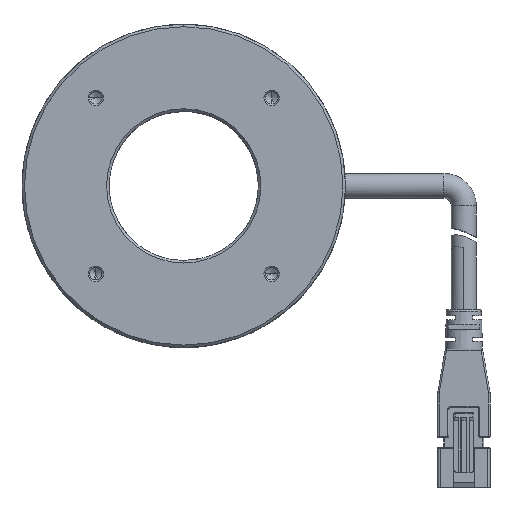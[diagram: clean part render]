
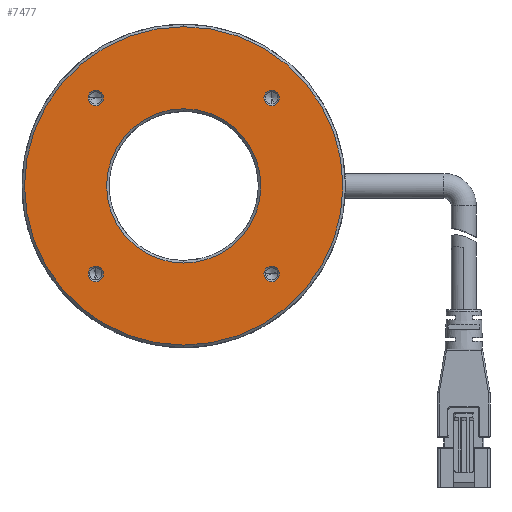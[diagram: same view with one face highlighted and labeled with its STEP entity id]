
A CAD part, top view. The second image highlights one B-rep face of the part: STEP entity #7477.
In plain terms, the highlighted planar face has unit normal (0, 0, 1).
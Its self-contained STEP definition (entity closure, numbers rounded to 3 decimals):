
#2044=CARTESIAN_POINT('',(17.678,17.678,1.5));
#2045=DIRECTION('',(0.,0.,-1.));
#2046=DIRECTION('',(0.,-1.,0.));
#2047=AXIS2_PLACEMENT_3D('',#2044,#2045,#2046);
#2049=CARTESIAN_POINT('',(17.678,17.678,1.5));
#2050=DIRECTION('',(0.,0.,-1.));
#2051=DIRECTION('',(0.,1.,0.));
#2052=AXIS2_PLACEMENT_3D('',#2049,#2050,#2051);
#2054=CARTESIAN_POINT('',(-17.678,-17.678,1.5));
#2055=DIRECTION('',(0.,0.,-1.));
#2056=DIRECTION('',(0.,1.,0.));
#2057=AXIS2_PLACEMENT_3D('',#2054,#2055,#2056);
#2059=CARTESIAN_POINT('',(-17.678,-17.678,1.5));
#2060=DIRECTION('',(0.,0.,-1.));
#2061=DIRECTION('',(0.,-1.,0.));
#2062=AXIS2_PLACEMENT_3D('',#2059,#2060,#2061);
#2064=CARTESIAN_POINT('',(0.,0.,1.5));
#2065=DIRECTION('',(0.,0.,-1.));
#2066=DIRECTION('',(0.,1.,0.));
#2067=AXIS2_PLACEMENT_3D('',#2064,#2065,#2066);
#2069=CARTESIAN_POINT('',(0.,0.,1.5));
#2070=DIRECTION('',(0.,0.,-1.));
#2071=DIRECTION('',(0.,-1.,0.));
#2072=AXIS2_PLACEMENT_3D('',#2069,#2070,#2071);
#2074=CARTESIAN_POINT('',(0.,0.,1.5));
#2075=DIRECTION('',(0.,0.,1.));
#2076=DIRECTION('',(0.,1.,0.));
#2077=AXIS2_PLACEMENT_3D('',#2074,#2075,#2076);
#2079=CARTESIAN_POINT('',(0.,0.,1.5));
#2080=DIRECTION('',(0.,0.,1.));
#2081=DIRECTION('',(0.,-1.,0.));
#2082=AXIS2_PLACEMENT_3D('',#2079,#2080,#2081);
#2132=CARTESIAN_POINT('',(17.678,-17.678,1.5));
#2133=DIRECTION('',(0.,0.,-1.));
#2134=DIRECTION('',(-1.,0.,0.));
#2135=AXIS2_PLACEMENT_3D('',#2132,#2133,#2134);
#2146=CARTESIAN_POINT('',(17.678,-17.678,1.5));
#2147=DIRECTION('',(0.,0.,-1.));
#2148=DIRECTION('',(1.,0.,0.));
#2149=AXIS2_PLACEMENT_3D('',#2146,#2147,#2148);
#2230=CARTESIAN_POINT('',(-17.678,17.678,1.5));
#2231=DIRECTION('',(0.,0.,-1.));
#2232=DIRECTION('',(-1.,0.,0.));
#2233=AXIS2_PLACEMENT_3D('',#2230,#2231,#2232);
#2244=CARTESIAN_POINT('',(-17.678,17.678,1.5));
#2245=DIRECTION('',(0.,0.,-1.));
#2246=DIRECTION('',(1.,0.,0.));
#2247=AXIS2_PLACEMENT_3D('',#2244,#2245,#2246);
#4401=CARTESIAN_POINT('',(0.,-32.,1.5));
#4402=CARTESIAN_POINT('',(0.,32.,1.5));
#4403=VERTEX_POINT('',#4401);
#4404=VERTEX_POINT('',#4402);
#4405=CARTESIAN_POINT('',(0.,-15.5,1.5));
#4406=CARTESIAN_POINT('',(0.,15.5,1.5));
#4407=VERTEX_POINT('',#4405);
#4408=VERTEX_POINT('',#4406);
#4409=CARTESIAN_POINT('',(-17.678,-19.228,1.5));
#4410=CARTESIAN_POINT('',(-17.678,-16.128,1.5));
#4411=VERTEX_POINT('',#4409);
#4412=VERTEX_POINT('',#4410);
#4413=CARTESIAN_POINT('',(17.678,19.228,1.5));
#4414=CARTESIAN_POINT('',(17.678,16.128,1.5));
#4415=VERTEX_POINT('',#4413);
#4416=VERTEX_POINT('',#4414);
#4479=CARTESIAN_POINT('',(-19.228,17.678,1.5));
#4481=VERTEX_POINT('',#4479);
#4484=CARTESIAN_POINT('',(-16.128,17.678,1.5));
#4486=VERTEX_POINT('',#4484);
#4503=CARTESIAN_POINT('',(16.128,-17.678,1.5));
#4505=VERTEX_POINT('',#4503);
#4508=CARTESIAN_POINT('',(19.228,-17.678,1.5));
#4510=VERTEX_POINT('',#4508);
#7438=CARTESIAN_POINT('',(0.,0.,1.5));
#7439=DIRECTION('',(0.,0.,-1.));
#7440=DIRECTION('',(0.,1.,0.));
#7441=AXIS2_PLACEMENT_3D('',#7438,#7439,#7440);
#7442=PLANE('',#7441);
#7444=ORIENTED_EDGE('',*,*,#7443,.F.);
#7446=ORIENTED_EDGE('',*,*,#7445,.F.);
#7447=EDGE_LOOP('',(#7444,#7446));
#7448=FACE_OUTER_BOUND('',#7447,.F.);
#7450=ORIENTED_EDGE('',*,*,#7449,.F.);
#7452=ORIENTED_EDGE('',*,*,#7451,.F.);
#7453=EDGE_LOOP('',(#7450,#7452));
#7454=FACE_BOUND('',#7453,.F.);
#7456=ORIENTED_EDGE('',*,*,#7455,.F.);
#7458=ORIENTED_EDGE('',*,*,#7457,.F.);
#7459=EDGE_LOOP('',(#7456,#7458));
#7460=FACE_BOUND('',#7459,.F.);
#7462=ORIENTED_EDGE('',*,*,#7461,.F.);
#7464=ORIENTED_EDGE('',*,*,#7463,.F.);
#7465=EDGE_LOOP('',(#7462,#7464));
#7466=FACE_BOUND('',#7465,.F.);
#7467=ORIENTED_EDGE('',*,*,#7403,.F.);
#7468=ORIENTED_EDGE('',*,*,#7424,.F.);
#7469=EDGE_LOOP('',(#7467,#7468));
#7470=FACE_BOUND('',#7469,.F.);
#7472=ORIENTED_EDGE('',*,*,#7471,.F.);
#7474=ORIENTED_EDGE('',*,*,#7473,.F.);
#7475=EDGE_LOOP('',(#7472,#7474));
#7476=FACE_BOUND('',#7475,.F.);
#7477=ADVANCED_FACE('',(#7448,#7454,#7460,#7466,#7470,#7476),#7442,.F.);
#2048=CIRCLE('',#2047,1.55);
#2053=CIRCLE('',#2052,1.55);
#2058=CIRCLE('',#2057,1.55);
#2063=CIRCLE('',#2062,1.55);
#2068=CIRCLE('',#2067,15.5);
#2073=CIRCLE('',#2072,15.5);
#2078=CIRCLE('',#2077,32.);
#2083=CIRCLE('',#2082,32.);
#2136=CIRCLE('',#2135,1.55);
#2150=CIRCLE('',#2149,1.55);
#2234=CIRCLE('',#2233,1.55);
#2248=CIRCLE('',#2247,1.55);
#7403=EDGE_CURVE('',#4408,#4407,#2068,.T.);
#7424=EDGE_CURVE('',#4407,#4408,#2073,.T.);
#7443=EDGE_CURVE('',#4404,#4403,#2078,.T.);
#7445=EDGE_CURVE('',#4403,#4404,#2083,.T.);
#7449=EDGE_CURVE('',#4505,#4510,#2136,.T.);
#7451=EDGE_CURVE('',#4510,#4505,#2150,.T.);
#7455=EDGE_CURVE('',#4412,#4411,#2058,.T.);
#7457=EDGE_CURVE('',#4411,#4412,#2063,.T.);
#7461=EDGE_CURVE('',#4481,#4486,#2234,.T.);
#7463=EDGE_CURVE('',#4486,#4481,#2248,.T.);
#7471=EDGE_CURVE('',#4416,#4415,#2048,.T.);
#7473=EDGE_CURVE('',#4415,#4416,#2053,.T.);
